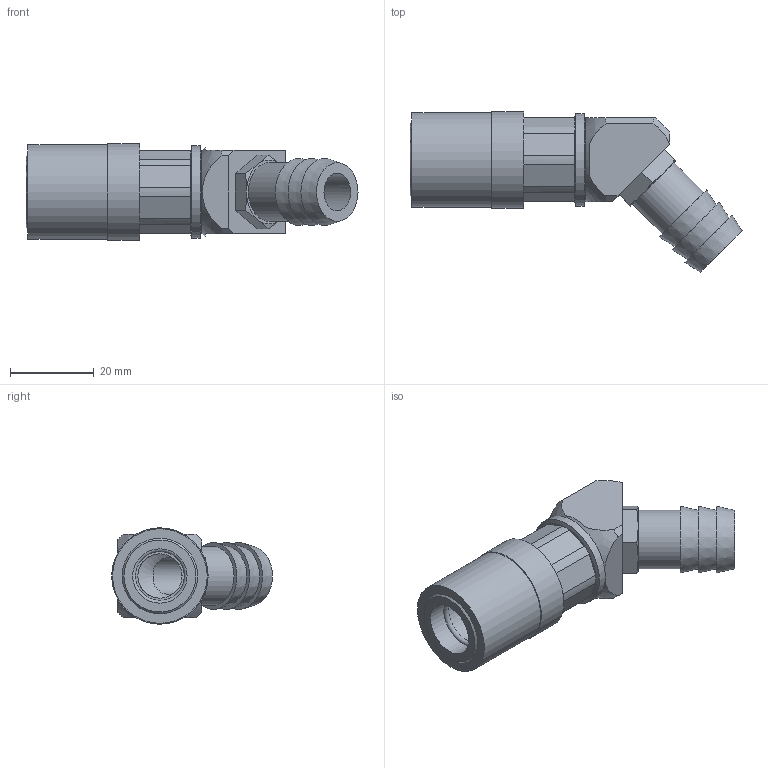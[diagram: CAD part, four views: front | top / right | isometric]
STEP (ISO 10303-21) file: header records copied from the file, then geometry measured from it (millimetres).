
FILE_DESCRIPTION(/* description */ ('STEP AP214'),/* implementation_level */ '2;1');
FILE_NAME(/* name */ 'SK313',/* time_stamp */ '2024-12-19T09:33:23+01:00',/* author */ ('License CC BY-ND 4.0'),/* organization */ ('CADENAS'),/* preprocessor_version */ 'ST-DEVELOPER v19.3',/* originating_system */ 'PARTsolutions',/* authorisation */ ' ');
FILE_SCHEMA (('AUTOMOTIVE_DESIGN {1 0 10303 214 3 1 1}'));
Length unit declared in the file: millimetre
Products named in the file (1): SK313
Bounding box: 79.32 x 38.4 x 23.05 mm (x, y, z)
Volume: 18840.3 mm3; surface area: 9143.5 mm2
Topology: 1 solids, 1 shells, 82 faces, 200 edges, 130 vertices
Faces by surface type: plane 55, cone 13, cylinder 10, sphere 3, torus 1
Full cylindrical faces by diameter (mm): 9 x1, 10.566 x1, 13 x2, 14 x1, 20.066 x1, 22.073 x1, 22.6 x1, 23.052 x1
Entity records: 2364 total; most frequent: CARTESIAN_POINT 500, DIRECTION 392, ORIENTED_EDGE 350, EDGE_CURVE 175, AXIS2_PLACEMENT_3D 165, VERTEX_POINT 123, EDGE_LOOP 112, FACE_BOUND 112
